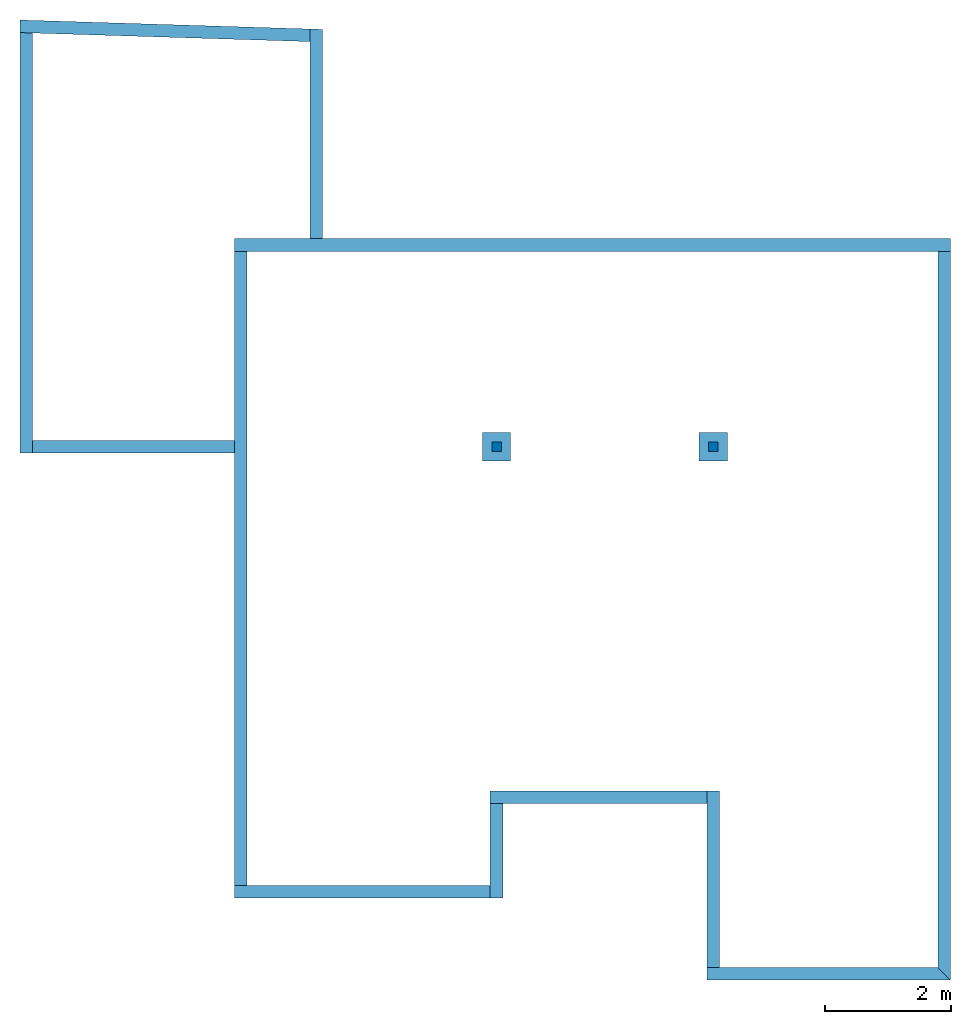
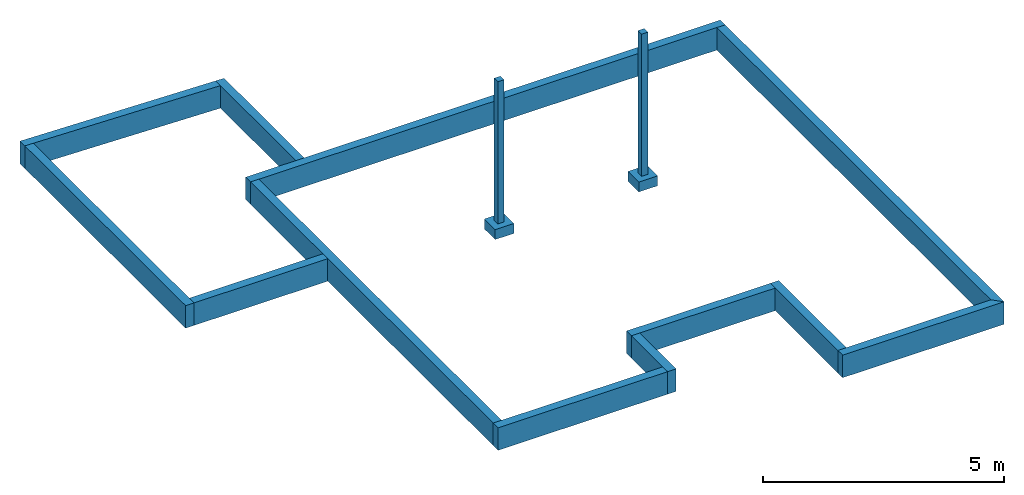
# One storey: 12 walls, 2 columns, 2 slabs.
"""IFC2X3 building model written with IfcOpenShell, lengths in centimetres."""

from ifc_helpers import new_model, entity, si_unit, converted_unit, derived_unit, direction, frame, frame_2d, origin, origin_2d_with_axis, place, context, subcontext, project, spatial, polyline, rectangle, outline, extrude, source, transform, mapped, material, layer, layer_set, layer_usage, type_object, type_shapes, element, save


model = new_model("IFC2X3")

# Units and contexts
model_context = context("Model", 3, precision=0.001, world=origin(), true_north=direction((6.123031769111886e-17, 1.0)))
body_context = subcontext(model_context, "Body", "Model", "MODEL_VIEW")
ifc_project = project(units=[si_unit("LENGTHUNIT", "METRE", prefix="CENTI"), si_unit("AREAUNIT", "SQUARE_METRE"), si_unit("VOLUMEUNIT", "CUBIC_METRE"), converted_unit("PLANEANGLEUNIT", "DEGREE", entity("IfcRatioMeasure", 0.017453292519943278), si_unit("PLANEANGLEUNIT", "RADIAN"), dimensions=[0, 0, 0, 0, 0, 0, 0]), si_unit("MASSUNIT", "GRAM", prefix="KILO"), derived_unit("MASSDENSITYUNIT", [(si_unit("MASSUNIT", "GRAM", prefix="KILO"), 1), (si_unit("LENGTHUNIT", "METRE"), -3)]), derived_unit("MOMENTOFINERTIAUNIT", [(si_unit("LENGTHUNIT", "METRE"), 4)]), si_unit("TIMEUNIT", "SECOND"), si_unit("FREQUENCYUNIT", "HERTZ"), si_unit("THERMODYNAMICTEMPERATUREUNIT", "DEGREE_CELSIUS"), derived_unit("THERMALTRANSMITTANCEUNIT", [(si_unit("MASSUNIT", "GRAM", prefix="KILO"), 1), (si_unit("THERMODYNAMICTEMPERATUREUNIT", "KELVIN"), -1), (si_unit("TIMEUNIT", "SECOND"), -3)]), derived_unit("THERMALCONDUCTANCEUNIT", [(si_unit("MASSUNIT", "GRAM", prefix="KILO"), 1), (si_unit("LENGTHUNIT", "METRE"), 1), (si_unit("THERMODYNAMICTEMPERATUREUNIT", "KELVIN"), -1), (si_unit("TIMEUNIT", "SECOND"), -3)]), derived_unit("VOLUMETRICFLOWRATEUNIT", [(si_unit("LENGTHUNIT", "METRE"), 3), (si_unit("TIMEUNIT", "SECOND"), -1)]), derived_unit("MASSFLOWRATEUNIT", [(si_unit("MASSUNIT", "GRAM", prefix="KILO"), 1), (si_unit("TIMEUNIT", "SECOND"), -1)]), derived_unit("ROTATIONALFREQUENCYUNIT", [(si_unit("TIMEUNIT", "SECOND"), -1)]), si_unit("ELECTRICCURRENTUNIT", "AMPERE"), si_unit("ELECTRICVOLTAGEUNIT", "VOLT"), si_unit("POWERUNIT", "WATT"), si_unit("FORCEUNIT", "NEWTON", prefix="KILO"), si_unit("ILLUMINANCEUNIT", "LUX"), si_unit("LUMINOUSFLUXUNIT", "LUMEN"), si_unit("LUMINOUSINTENSITYUNIT", "CANDELA"), derived_unit("USERDEFINED", [(si_unit("MASSUNIT", "GRAM", prefix="KILO"), -1), (si_unit("LENGTHUNIT", "METRE"), -2), (si_unit("TIMEUNIT", "SECOND"), 3), (si_unit("LUMINOUSFLUXUNIT", "LUMEN"), 1)]), derived_unit("USERDEFINED", [(si_unit("MASSUNIT", "GRAM", prefix="KILO"), 1), (si_unit("LENGTHUNIT", "METRE"), 3), (si_unit("TIMEUNIT", "SECOND"), -3), (si_unit("ELECTRICCURRENTUNIT", "AMPERE"), -2)]), derived_unit("USERDEFINED", [(si_unit("LENGTHUNIT", "METRE"), 2), (si_unit("TIMEUNIT", "SECOND"), -2)]), derived_unit("SOUNDPOWERUNIT", [(si_unit("MASSUNIT", "GRAM", prefix="KILO"), 1), (si_unit("LENGTHUNIT", "METRE"), 2), (si_unit("TIMEUNIT", "SECOND"), -3)]), derived_unit("SOUNDPRESSUREUNIT", [(si_unit("MASSUNIT", "GRAM", prefix="KILO"), 1), (si_unit("LENGTHUNIT", "METRE"), -1), (si_unit("TIMEUNIT", "SECOND"), -2)]), derived_unit("LINEARVELOCITYUNIT", [(si_unit("LENGTHUNIT", "METRE"), 1), (si_unit("TIMEUNIT", "SECOND"), -1)]), si_unit("PRESSUREUNIT", "PASCAL"), derived_unit("USERDEFINED", [(si_unit("LENGTHUNIT", "METRE"), -2), (si_unit("MASSUNIT", "GRAM", prefix="KILO"), 1), (si_unit("TIMEUNIT", "SECOND"), -2)]), derived_unit("LINEARFORCEUNIT", [(si_unit("MASSUNIT", "GRAM", prefix="KILO"), 1), (si_unit("LENGTHUNIT", "METRE"), 1), (si_unit("TIMEUNIT", "SECOND"), -2), (si_unit("LENGTHUNIT", "METRE"), -1)]), derived_unit("PLANARFORCEUNIT", [(si_unit("MASSUNIT", "GRAM", prefix="KILO"), 1), (si_unit("LENGTHUNIT", "METRE"), 1), (si_unit("TIMEUNIT", "SECOND"), -2), (si_unit("LENGTHUNIT", "METRE"), -2)]), derived_unit("SPECIFICHEATCAPACITYUNIT", [(si_unit("LENGTHUNIT", "METRE"), 2), (si_unit("TIMEUNIT", "SECOND"), -2), (si_unit("THERMODYNAMICTEMPERATUREUNIT", "KELVIN"), -1)]), derived_unit("VAPORPERMEABILITYUNIT", [(si_unit("TIMEUNIT", "SECOND"), 1), (si_unit("LENGTHUNIT", "METRE"), -1)]), derived_unit("DYNAMICVISCOSITYUNIT", [(si_unit("MASSUNIT", "GRAM", prefix="KILO"), 1), (si_unit("LENGTHUNIT", "METRE"), -1), (si_unit("TIMEUNIT", "SECOND"), -1)]), derived_unit("THERMALEXPANSIONCOEFFICIENTUNIT", [(si_unit("THERMODYNAMICTEMPERATUREUNIT", "KELVIN"), -1)])], contexts=[model_context])

# Site, building, storey
site_placement = place(None, origin())
site = spatial("IfcSite", under=ifc_project, at=site_placement, Name="Default", CompositionType="ELEMENT")
building_placement = place(site_placement, origin())
building = spatial("IfcBuilding", under=site, at=building_placement, CompositionType="ELEMENT")
storey_placement = place(building_placement, frame((0.0, 0.0, -70.0)))
storey = spatial("IfcBuildingStorey", under=building, at=storey_placement, Name="0_Fondation", CompositionType="ELEMENT", Elevation=-70.0)

# Columns
ifc_material_1 = material(Name="<Unnamed>")
column_type = type_object("IfcColumnType", Name="Poteau rectangulaire:150 x 150 mm", PredefinedType="COLUMN", material=ifc_material_1)
shared_shape = source(origin(), body_context, "Body", "SweptSolid", [
    extrude(rectangle(XDim=14.99999999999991, YDim=15.000000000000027, at=origin_2d_with_axis()), frame((0.0, 0.0, -70.0), z_axis=(0.0, 0.0, 1.0), x_axis=(0.0, -1.0, 0.0)), (0.0, 0.0, 1.0), 360.0),
])
type_shapes(column_type, [shared_shape])
for number, where, name in (
    (1, (-304.06844376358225, 46.646645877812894, 70.0), "Poteau rectangulaire:150 x 150 mm"),
    (2, (39.931556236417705, 46.64664587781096, 70.0), "Poteau rectangulaire:150 x 150 mm"),
):
    element("IfcColumn", number, at=place(storey_placement, frame(where)), inside=storey, type_object=column_type, material=ifc_material_1, Name=name, ObjectType="Poteau rectangulaire:150 x 150 mm", context=body_context, shape_type="MappedRepresentation", body=[
        mapped(shared_shape, transform((0.0, 0.0, 0.0), scale=1.0)),
    ])

# Slabs
ifc_material_2 = material(Name="Béton - Béton coulé sur place")
slab_type = type_object("IfcSlabType", Name="Base rectangulaire:450mm x 450mm x 250mm", PredefinedType="BASESLAB", material=ifc_material_2)
slab_1_placement = place(storey_placement, origin())
element("IfcSlab", 3, at=slab_1_placement, inside=storey, type_object=slab_type, Name="Base rectangulaire:450mm x 450mm x 250mm", ObjectType="Base rectangulaire:450mm x 450mm x 250mm", PredefinedType="BASESLAB", context=body_context, shape_type="SweptSolid", body=[
    extrude(rectangle(XDim=44.999999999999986, YDim=45.0, at=origin_2d_with_axis()), frame((39.93155623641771, 46.64664587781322, -25.0), z_axis=(0.0, 0.0, 1.0), x_axis=(-1.0, 0.0, 0.0)), (0.0, 0.0, 1.0), 25.0),
    extrude(rectangle(XDim=44.999999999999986, YDim=45.0, at=origin_2d_with_axis()), frame((39.93155623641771, 46.64664587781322, -25.0), z_axis=(0.0, 0.0, 1.0), x_axis=(-1.0, 0.0, 0.0)), (0.0, 0.0, 1.0), 25.0),
])
slab_2_placement = place(storey_placement, origin())
element("IfcSlab", 4, at=slab_2_placement, inside=storey, type_object=slab_type, Name="Base rectangulaire:450mm x 450mm x 250mm", ObjectType="Base rectangulaire:450mm x 450mm x 250mm", PredefinedType="BASESLAB", context=body_context, shape_type="SweptSolid", body=[
    extrude(rectangle(XDim=45.0, YDim=45.0, at=frame_2d((-2.6645352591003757e-14, 0.0), x_axis=(1.0, 0.0))), frame((-304.06844376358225, 46.64664587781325, -25.0), z_axis=(0.0, 0.0, 1.0), x_axis=(-1.0, 0.0, 0.0)), (0.0, 0.0, 1.0), 25.0),
    extrude(rectangle(XDim=45.0, YDim=45.0, at=frame_2d((-2.6645352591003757e-14, 0.0), x_axis=(1.0, 0.0))), frame((-304.06844376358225, 46.64664587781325, -25.0), z_axis=(0.0, 0.0, 1.0), x_axis=(-1.0, 0.0, 0.0)), (0.0, 0.0, 1.0), 25.0),
])

# Walls
ifc_material_3 = material(Name="Maçonnerie - Béton(1)")
ifc_layer = layer(ifc_material_3, 20.0)
ifc_layer_set = layer_set([ifc_layer], Name="Mur de base:Mur soubassement 20")
ifc_layer_usage_1 = layer_usage(ifc_layer_set, "AXIS2", "NEGATIVE", 10.0)
wall_type = type_object("IfcWallType", Name="Mur de base:Mur soubassement 20", PredefinedType="STANDARD", material=ifc_layer_set)
wall_1_placement = place(storey_placement, frame((-720.0684437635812, 366.646645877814, 0.0)))
element("IfcWallStandardCase", 5, at=wall_1_placement, inside=storey, type_object=wall_type, material=ifc_layer_usage_1, Name="Mur de base:Mur soubassement 20", ObjectType="Mur de base:Mur soubassement 20", context=body_context, shape_type="SweptSolid", body=[
    extrude(rectangle(XDim=1136.0000000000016, YDim=20.0, at=frame_2d((568.0000000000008, 1.0658141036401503e-14), x_axis=(-1.0, 0.0))), origin(), (0.0, 0.0, 1.0), 57.00000000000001),
])
wall_2_placement = place(storey_placement, frame((405.9315562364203, 356.6466458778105, 0.0), z_axis=(0.0, 0.0, 1.0), x_axis=(0.0, -1.0, 0.0)))
element("IfcWallStandardCase", 6, at=wall_2_placement, inside=storey, type_object=wall_type, material=ifc_layer_usage_1, Name="Mur de base:Mur soubassement 20", ObjectType="Mur de base:Mur soubassement 20", context=body_context, shape_type="SweptSolid", body=[
    extrude(outline(polyline([(1136.0, -10.0), (1156.0, 10.0), (0.0, 10.0), (0.0, -10.0), (1136.0, -10.0)])), origin(), (0.0, 0.0, 1.0), 57.00000000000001),
])
wall_3_placement = place(storey_placement, frame((415.93155623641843, -789.3533541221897, 0.0), z_axis=(0.0, 0.0, 1.0), x_axis=(-1.0, 0.0, 0.0)))
element("IfcWallStandardCase", 7, at=wall_3_placement, inside=storey, type_object=wall_type, material=ifc_layer_usage_1, Name="Mur de base:Mur soubassement 20", ObjectType="Mur de base:Mur soubassement 20", context=body_context, shape_type="SweptSolid", body=[
    extrude(outline(polyline([(386.0, -10.0), (386.0, 10.0), (0.0, 10.0), (20.0, -10.0), (366.0, -10.0), (386.0, -10.0)])), origin(), (0.0, 0.0, 1.0), 57.00000000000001),
])
wall_4_placement = place(storey_placement, frame((39.93155623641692, -779.3533541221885, 0.0), z_axis=(0.0, 0.0, 1.0), x_axis=(0.0, 1.0, 0.0)))
element("IfcWallStandardCase", 8, at=wall_4_placement, inside=storey, type_object=wall_type, material=ifc_layer_usage_1, Name="Mur de base:Mur soubassement 20", ObjectType="Mur de base:Mur soubassement 20", context=body_context, shape_type="SweptSolid", body=[
    extrude(rectangle(XDim=280.0000000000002, YDim=20.0, at=frame_2d((140.0000000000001, 0.0), x_axis=(-1.0, 0.0))), origin(), (0.0, 0.0, 1.0), 57.00000000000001),
])
wall_5_placement = place(storey_placement, frame((29.931556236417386, -509.3533541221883, 0.0), z_axis=(0.0, 0.0, 1.0), x_axis=(-1.0, 0.0, 0.0)))
element("IfcWallStandardCase", 9, at=wall_5_placement, inside=storey, type_object=wall_type, material=ifc_layer_usage_1, Name="Mur de base:Mur soubassement 20", ObjectType="Mur de base:Mur soubassement 20", context=body_context, shape_type="SweptSolid", body=[
    extrude(rectangle(XDim=343.9999999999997, YDim=20.0, at=frame_2d((171.99999999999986, 2.1316282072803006e-14), x_axis=(-1.0, 0.0))), origin(), (0.0, 0.0, 1.0), 57.00000000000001),
])
wall_6_placement = place(storey_placement, frame((-304.06844376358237, -519.3533541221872, 0.0), z_axis=(0.0, 0.0, 1.0), x_axis=(0.0, -1.0, 0.0)))
element("IfcWallStandardCase", 10, at=wall_6_placement, inside=storey, type_object=wall_type, material=ifc_layer_usage_1, Name="Mur de base:Mur soubassement 20", ObjectType="Mur de base:Mur soubassement 20", context=body_context, shape_type="SweptSolid", body=[
    extrude(rectangle(XDim=150.00000000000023, YDim=20.0, at=frame_2d((75.00000000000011, 0.0), x_axis=(-1.0, 0.0))), origin(), (0.0, 0.0, 1.0), 57.00000000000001),
])
wall_7_placement = place(storey_placement, frame((-314.06844376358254, -659.3533541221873, 0.0), z_axis=(0.0, 0.0, 1.0), x_axis=(-1.0, 0.0, 0.0)))
element("IfcWallStandardCase", 11, at=wall_7_placement, inside=storey, type_object=wall_type, material=ifc_layer_usage_1, Name="Mur de base:Mur soubassement 20", ObjectType="Mur de base:Mur soubassement 20", context=body_context, shape_type="SweptSolid", body=[
    extrude(rectangle(XDim=406.0000000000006, YDim=20.0, at=frame_2d((203.0000000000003, -2.042810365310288e-14), x_axis=(-1.0, 0.0))), origin(), (0.0, 0.0, 1.0), 57.00000000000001),
])
wall_8_placement = place(storey_placement, frame((-710.0684437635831, -649.353354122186, 0.0), z_axis=(0.0, 0.0, 1.0), x_axis=(0.0, 1.0, 0.0)))
element("IfcWallStandardCase", 12, at=wall_8_placement, inside=storey, type_object=wall_type, material=ifc_layer_usage_1, Name="Mur de base:Mur soubassement 20", ObjectType="Mur de base:Mur soubassement 20", context=body_context, shape_type="SweptSolid", body=[
    extrude(rectangle(XDim=1006.0, YDim=20.0, at=frame_2d((503.0, 0.0), x_axis=(-1.0, 0.0))), origin(), (0.0, 0.0, 1.0), 57.00000000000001),
])
ifc_layer_usage_2 = layer_usage(ifc_layer_set, "AXIS2", "POSITIVE", -10.0)
wall_9_placement = place(storey_placement, frame((-590.0684437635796, 376.64664587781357, 0.0), z_axis=(0.0, 0.0, 1.0), x_axis=(0.0, 1.0, 0.0)))
element("IfcWallStandardCase", 13, at=wall_9_placement, inside=storey, type_object=wall_type, material=ifc_layer_usage_2, Name="Mur de base:Mur soubassement 20", ObjectType="Mur de base:Mur soubassement 20", context=body_context, shape_type="SweptSolid", body=[
    extrude(outline(polyline([(332.0610232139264, -10.0), (332.6808579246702, 10.0), (312.67125535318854, 10.0), (0.0, 10.0), (0.0, -10.0), (332.0610232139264, -10.0)])), origin(), (0.0, 0.0, 1.0), 57.00000000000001),
])
wall_10_placement = place(storey_placement, frame((-599.7586751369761, 699.3131022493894, 0.0), z_axis=(0.0, 0.0, 1.0), x_axis=(-0.9995201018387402, 0.03097686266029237, 0.0)))
element("IfcWallStandardCase", 14, at=wall_10_placement, inside=storey, type_object=wall_type, material=ifc_layer_usage_2, Name="Mur de base:Mur soubassement 20", ObjectType="Mur de base:Mur soubassement 20", context=body_context, shape_type="SweptSolid", body=[
    extrude(outline(polyline([(460.8406938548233, -10.0), (460.2208591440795, 10.0), (440.21125657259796, 10.0), (0.0, 10.0), (0.6198347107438, -10.0), (460.8406938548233, -10.0)])), origin(), (0.0, 0.0, 1.0), 57.00000000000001),
])
wall_11_placement = place(storey_placement, frame((-1050.0684437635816, 703.5740995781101, 0.0), z_axis=(0.0, 0.0, 1.0), x_axis=(0.0, -1.0, 0.0)))
element("IfcWallStandardCase", 15, at=wall_11_placement, inside=storey, type_object=wall_type, material=ifc_layer_usage_2, Name="Mur de base:Mur soubassement 20", ObjectType="Mur de base:Mur soubassement 20", context=body_context, shape_type="SweptSolid", body=[
    extrude(outline(polyline([(666.927453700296, -10.0), (666.9274537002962, 10.0), (646.9274537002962, 10.0), (0.6198347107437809, 10.0), (0.0, -10.0), (666.927453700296, -10.0)])), origin(), (0.0, 0.0, 1.0), 57.00000000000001),
])
wall_12_placement = place(storey_placement, frame((-1040.0684437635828, 46.64664587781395, 0.0)))
element("IfcWallStandardCase", 16, at=wall_12_placement, inside=storey, type_object=wall_type, material=ifc_layer_usage_2, Name="Mur de base:Mur soubassement 20", ObjectType="Mur de base:Mur soubassement 20", context=body_context, shape_type="SweptSolid", body=[
    extrude(rectangle(XDim=320.0000000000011, YDim=20.0, at=frame_2d((160.00000000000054, 0.0), x_axis=(-1.0, 0.0))), origin(), (0.0, 0.0, 1.0), 57.00000000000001),
])

save(model, "model.ifc")
